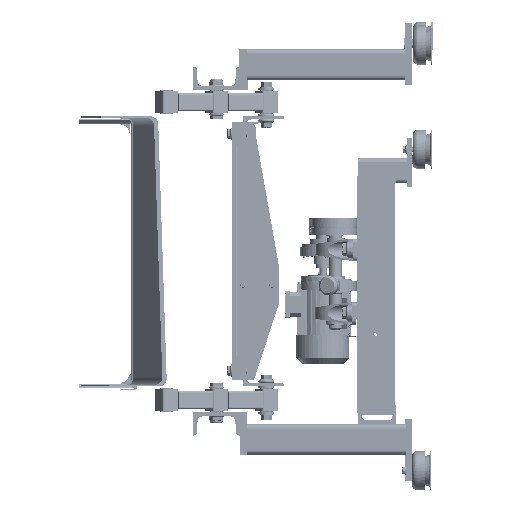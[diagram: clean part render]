
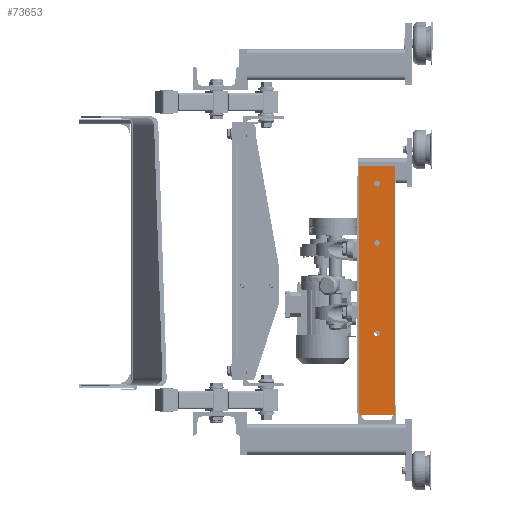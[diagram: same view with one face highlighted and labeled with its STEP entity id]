
A CAD part, left-side view. The second image highlights one B-rep face of the part: STEP entity #73653.
In plain terms, the highlighted planar face has unit normal (-1, 0, 0).
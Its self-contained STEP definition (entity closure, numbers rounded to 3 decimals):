
#51480=FACE_BOUND('',#110773,.T.);
#51481=FACE_BOUND('',#110774,.T.);
#51482=FACE_BOUND('',#110775,.T.);
#51483=FACE_BOUND('',#110776,.T.);
#58828=PLANE('',#357266);
#73653=ADVANCED_FACE('',(#51480,#51481,#51482,#51483),#58828,.T.);
#110773=EDGE_LOOP('',(#235258,#235259,#235260,#235261));
#110774=EDGE_LOOP('',(#235262,#235263));
#110775=EDGE_LOOP('',(#235264,#235265));
#110776=EDGE_LOOP('',(#235266,#235267,#235268,#235269));
#132649=LINE('',#569294,#156061);
#132658=LINE('',#569313,#156070);
#132659=LINE('',#569315,#156071);
#132724=LINE('',#569785,#156136);
#156061=VECTOR('',#430913,1.);
#156070=VECTOR('',#430926,1.);
#156071=VECTOR('',#430929,1.);
#156136=VECTOR('',#431182,1.);
#235258=ORIENTED_EDGE('',*,*,#314738,.F.);
#235259=ORIENTED_EDGE('',*,*,#314748,.F.);
#235260=ORIENTED_EDGE('',*,*,#314885,.T.);
#235261=ORIENTED_EDGE('',*,*,#314749,.F.);
#235262=ORIENTED_EDGE('',*,*,#314886,.T.);
#235263=ORIENTED_EDGE('',*,*,#314014,.T.);
#235264=ORIENTED_EDGE('',*,*,#314887,.T.);
#235265=ORIENTED_EDGE('',*,*,#314019,.T.);
#235266=ORIENTED_EDGE('',*,*,#314888,.T.);
#235267=ORIENTED_EDGE('',*,*,#314095,.T.);
#235268=ORIENTED_EDGE('',*,*,#314100,.T.);
#235269=ORIENTED_EDGE('',*,*,#314889,.T.);
#272358=VERTEX_POINT('',#567715);
#272359=VERTEX_POINT('',#567716);
#272363=VERTEX_POINT('',#567726);
#272364=VERTEX_POINT('',#567727);
#272434=VERTEX_POINT('',#567891);
#272435=VERTEX_POINT('',#567892);
#272439=VERTEX_POINT('',#567900);
#272984=VERTEX_POINT('',#569293);
#272985=VERTEX_POINT('',#569295);
#272992=VERTEX_POINT('',#569312);
#272993=VERTEX_POINT('',#569316);
#273074=VERTEX_POINT('',#569789);
#314014=EDGE_CURVE('',#272358,#272359,#329995,.T.);
#314019=EDGE_CURVE('',#272363,#272364,#329998,.T.);
#314095=EDGE_CURVE('',#272434,#272435,#330038,.T.);
#314100=EDGE_CURVE('',#272435,#272439,#330041,.T.);
#314738=EDGE_CURVE('',#272984,#272985,#132649,.T.);
#314748=EDGE_CURVE('',#272992,#272984,#132658,.T.);
#314749=EDGE_CURVE('',#272985,#272993,#132659,.T.);
#314885=EDGE_CURVE('',#272992,#272993,#132724,.T.);
#314886=EDGE_CURVE('',#272359,#272358,#330353,.T.);
#314887=EDGE_CURVE('',#272364,#272363,#330354,.T.);
#314888=EDGE_CURVE('',#273074,#272434,#330355,.T.);
#314889=EDGE_CURVE('',#272439,#273074,#330356,.T.);
#329995=CIRCLE('',#356707,3.648);
#329998=CIRCLE('',#356711,3.648);
#330038=CIRCLE('',#356769,3.648);
#330041=CIRCLE('',#356772,3.648);
#330353=CIRCLE('',#357262,3.648);
#330354=CIRCLE('',#357263,3.648);
#330355=CIRCLE('',#357264,3.648);
#330356=CIRCLE('',#357265,3.648);
#356707=AXIS2_PLACEMENT_3D('',#567714,#429628,#429629);
#356711=AXIS2_PLACEMENT_3D('',#567725,#429638,#429639);
#356769=AXIS2_PLACEMENT_3D('',#567890,#429790,#429791);
#356772=AXIS2_PLACEMENT_3D('',#567901,#429798,#429799);
#357262=AXIS2_PLACEMENT_3D('',#569786,#431183,#431184);
#357263=AXIS2_PLACEMENT_3D('',#569787,#431185,#431186);
#357264=AXIS2_PLACEMENT_3D('',#569788,#431187,#431188);
#357265=AXIS2_PLACEMENT_3D('',#569790,#431189,#431190);
#357266=AXIS2_PLACEMENT_3D('',#569791,#431191,#431192);
#429628=DIRECTION('',(1.,0.,0.));
#429629=DIRECTION('',(0.,0.,-1.));
#429638=DIRECTION('',(1.,0.,0.));
#429639=DIRECTION('',(0.,0.,-1.));
#429790=DIRECTION('',(1.,0.,0.));
#429791=DIRECTION('',(0.,0.,-1.));
#429798=DIRECTION('',(1.,0.,0.));
#429799=DIRECTION('',(0.,0.,-1.));
#430913=DIRECTION('',(0.,1.,0.));
#430926=DIRECTION('',(0.,0.,-1.));
#430929=DIRECTION('',(0.,0.,1.));
#431182=DIRECTION('',(0.,1.,0.));
#431183=DIRECTION('',(1.,0.,0.));
#431184=DIRECTION('',(0.,0.,-1.));
#431185=DIRECTION('',(1.,0.,0.));
#431186=DIRECTION('',(0.,0.,-1.));
#431187=DIRECTION('',(1.,0.,0.));
#431188=DIRECTION('',(0.,0.,-1.));
#431189=DIRECTION('',(1.,0.,0.));
#431190=DIRECTION('',(0.,0.,-1.));
#431191=DIRECTION('',(-1.,0.,0.));
#431192=DIRECTION('',(0.,0.,-1.));
#567714=CARTESIAN_POINT('',(1021.277,31.132,-303.288));
#567715=CARTESIAN_POINT('',(1021.277,31.132,-299.64));
#567716=CARTESIAN_POINT('',(1021.277,31.132,-306.936));
#567725=CARTESIAN_POINT('',(1021.277,31.132,-189.288));
#567726=CARTESIAN_POINT('',(1021.277,31.132,-185.64));
#567727=CARTESIAN_POINT('',(1021.277,31.132,-192.936));
#567890=CARTESIAN_POINT('',(1021.277,31.132,-114.582));
#567891=CARTESIAN_POINT('',(1021.277,31.132,-110.934));
#567892=CARTESIAN_POINT('',(1021.277,27.484,-114.582));
#567900=CARTESIAN_POINT('',(1021.277,31.132,-118.23));
#567901=CARTESIAN_POINT('',(1021.277,31.132,-114.582));
#569293=CARTESIAN_POINT('',(1021.277,8.332,-406.078));
#569294=CARTESIAN_POINT('',(1021.277,268.632,-406.078));
#569295=CARTESIAN_POINT('',(1021.277,53.932,-406.078));
#569312=CARTESIAN_POINT('',(1021.277,8.332,-92.317));
#569313=CARTESIAN_POINT('',(1021.277,8.332,-838.328));
#569315=CARTESIAN_POINT('',(1021.277,53.932,-838.328));
#569316=CARTESIAN_POINT('',(1021.277,53.932,-92.317));
#569785=CARTESIAN_POINT('',(1021.277,91.932,-92.317));
#569786=CARTESIAN_POINT('',(1021.277,31.132,-303.288));
#569787=CARTESIAN_POINT('',(1021.277,31.132,-189.288));
#569788=CARTESIAN_POINT('',(1021.277,31.132,-114.582));
#569789=CARTESIAN_POINT('',(1021.277,34.78,-114.582));
#569790=CARTESIAN_POINT('',(1021.277,31.132,-114.582));
#569791=CARTESIAN_POINT('',(1021.277,91.932,-838.328));
